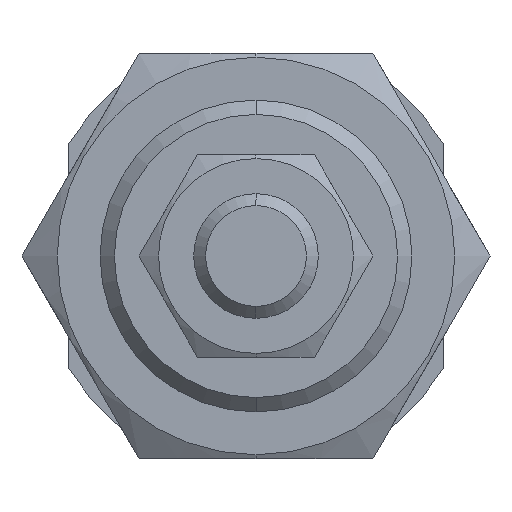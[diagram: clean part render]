
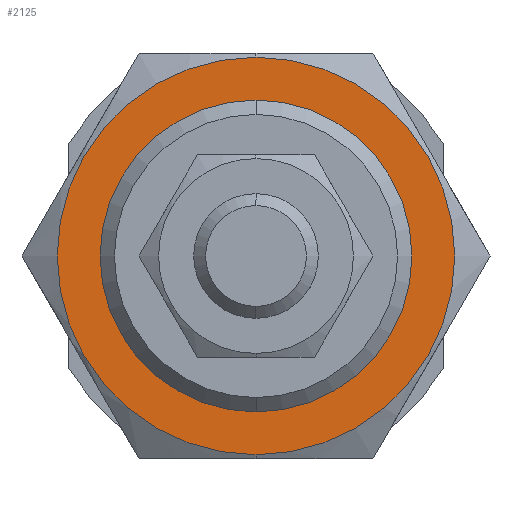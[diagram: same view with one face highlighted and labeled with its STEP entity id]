
A CAD part, left-side view. The second image highlights one B-rep face of the part: STEP entity #2125.
In plain terms, the highlighted planar face has unit normal (-1, 0, 0).
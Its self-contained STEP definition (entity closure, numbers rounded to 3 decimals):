
#208 = AXIS2_PLACEMENT_3D ( 'NONE', #1443, #1076, #1912 ) ;
#654 = DIRECTION ( 'NONE',  ( 1., 0., 0. ) ) ;
#776 = CARTESIAN_POINT ( 'NONE',  ( -11., 0., -12.75 ) ) ;
#804 = CIRCLE ( 'NONE', #4410, 10. ) ;
#941 = CARTESIAN_POINT ( 'NONE',  ( -11., 0., 0. ) ) ;
#975 = EDGE_CURVE ( 'NONE', #5418, #2133, #2252, .T. ) ;
#1076 = DIRECTION ( 'NONE',  ( 1., 0., 0. ) ) ;
#1082 = DIRECTION ( 'NONE',  ( 0., 0., -1. ) ) ;
#1284 = EDGE_LOOP ( 'NONE', ( #3217, #1336 ) ) ;
#1336 = ORIENTED_EDGE ( 'NONE', *, *, #4976, .T. ) ;
#1399 = CIRCLE ( 'NONE', #4211, 12.75 ) ;
#1443 = CARTESIAN_POINT ( 'NONE',  ( -11., 0., 0. ) ) ;
#1632 = AXIS2_PLACEMENT_3D ( 'NONE', #4677, #2231, #1082 ) ;
#1742 = EDGE_LOOP ( 'NONE', ( #5152, #5307 ) ) ;
#1886 = DIRECTION ( 'NONE',  ( 0., 1., 0. ) ) ;
#1912 = DIRECTION ( 'NONE',  ( 0., 0., -1. ) ) ;
#2036 = DIRECTION ( 'NONE',  ( 1., 0., 0. ) ) ;
#2125 = ADVANCED_FACE ( 'NONE', ( #4311, #2686 ), #2304, .F. ) ;
#2133 = VERTEX_POINT ( 'NONE', #4751 ) ;
#2231 = DIRECTION ( 'NONE',  ( 1., 0., 0. ) ) ;
#2252 = CIRCLE ( 'NONE', #1632, 10. ) ;
#2304 = PLANE ( 'NONE',  #4895 ) ;
#2473 = EDGE_CURVE ( 'NONE', #5371, #3283, #1399, .T. ) ;
#2686 = FACE_BOUND ( 'NONE', #1284, .T. ) ;
#2755 = CARTESIAN_POINT ( 'NONE',  ( -11., 0., 0. ) ) ;
#3173 = DIRECTION ( 'NONE',  ( 0., 0., -1. ) ) ;
#3217 = ORIENTED_EDGE ( 'NONE', *, *, #975, .T. ) ;
#3244 = CARTESIAN_POINT ( 'NONE',  ( -11., 0., 0. ) ) ;
#3283 = VERTEX_POINT ( 'NONE', #4277 ) ;
#3664 = EDGE_CURVE ( 'NONE', #3283, #5371, #4270, .T. ) ;
#4211 = AXIS2_PLACEMENT_3D ( 'NONE', #2755, #654, #3173 ) ;
#4270 = CIRCLE ( 'NONE', #208, 12.75 ) ;
#4277 = CARTESIAN_POINT ( 'NONE',  ( -11., 0., 12.75 ) ) ;
#4311 = FACE_OUTER_BOUND ( 'NONE', #1742, .T. ) ;
#4410 = AXIS2_PLACEMENT_3D ( 'NONE', #3244, #2036, #4922 ) ;
#4677 = CARTESIAN_POINT ( 'NONE',  ( -11., 0., 0. ) ) ;
#4751 = CARTESIAN_POINT ( 'NONE',  ( -11., 0., -10. ) ) ;
#4804 = CARTESIAN_POINT ( 'NONE',  ( -11., 0., 10. ) ) ;
#4895 = AXIS2_PLACEMENT_3D ( 'NONE', #941, #5219, #1886 ) ;
#4922 = DIRECTION ( 'NONE',  ( 0., 0., -1. ) ) ;
#4976 = EDGE_CURVE ( 'NONE', #2133, #5418, #804, .T. ) ;
#5152 = ORIENTED_EDGE ( 'NONE', *, *, #2473, .F. ) ;
#5219 = DIRECTION ( 'NONE',  ( 1., 0., 0. ) ) ;
#5307 = ORIENTED_EDGE ( 'NONE', *, *, #3664, .F. ) ;
#5371 = VERTEX_POINT ( 'NONE', #776 ) ;
#5418 = VERTEX_POINT ( 'NONE', #4804 ) ;
